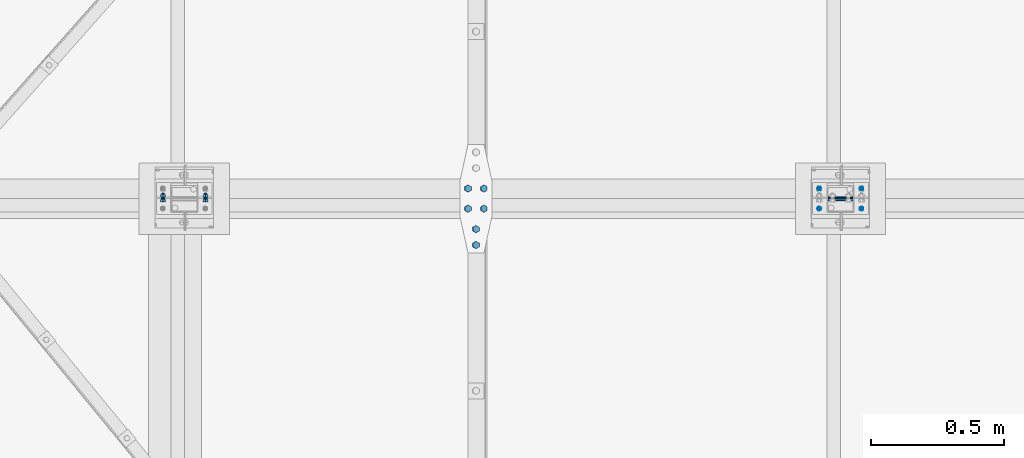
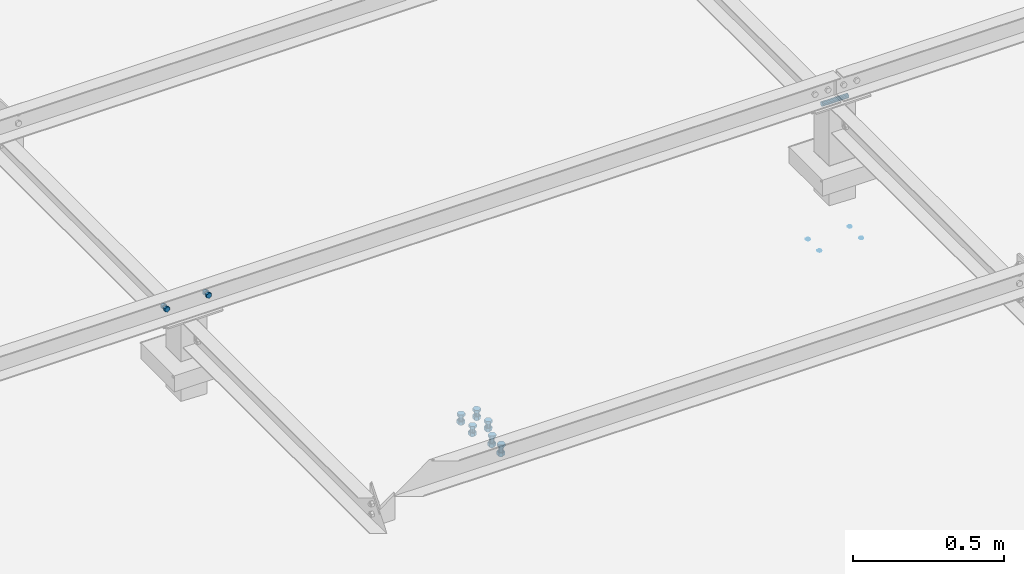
# One storey, part 327 of 3134: 5 mechanical fasteners, 5 elements without a shape of their own.
"""IFC2X3 building model written with IfcOpenShell, lengths in millimetres."""

from ifc_helpers import new_model, si_unit, frame, origin_with_axes, place, context, subcontext, project, spatial, faceted_brep, source, transform, mapped, material, type_object, element, aggregate, save


model = new_model("IFC2X3")

# Units and contexts
model_context = context("Model", 3, precision=1e-05, world=origin_with_axes())
body_context = subcontext(model_context, "Body", "Model", "MODEL_VIEW")
ifc_project = project(units=[si_unit("LENGTHUNIT", "METRE", prefix="MILLI"), si_unit("AREAUNIT", "SQUARE_METRE"), si_unit("VOLUMEUNIT", "CUBIC_METRE"), si_unit("MASSUNIT", "GRAM", prefix="KILO"), si_unit("TIMEUNIT", "SECOND"), si_unit("PLANEANGLEUNIT", "RADIAN"), si_unit("SOLIDANGLEUNIT", "STERADIAN"), si_unit("THERMODYNAMICTEMPERATUREUNIT", "DEGREE_CELSIUS"), si_unit("LUMINOUSINTENSITYUNIT", "LUMEN")], contexts=[model_context])

# Site, building, storey
site_placement = place(None, origin_with_axes())
site = spatial("IfcSite", under=ifc_project, at=site_placement, CompositionType="ELEMENT")
building_placement = place(site_placement, origin_with_axes())
building = spatial("IfcBuilding", under=site, at=building_placement, Name="Undefined", CompositionType="ELEMENT")
storey_placement = place(building_placement, origin_with_axes())
storey = spatial("IfcBuildingStorey", under=building, at=storey_placement, Name="Undefined", CompositionType="ELEMENT", Elevation=0.0)

# Assembly, mechanical fastener
assembly_1_placement = place(storey_placement, origin_with_axes())
assembly_1 = element("IfcElementAssembly", 1, at=assembly_1_placement, inside=storey, Name="300", AssemblyPlace="NOTDEFINED", PredefinedType="RIGID_FRAME")
ifc_material = material(Name="8.8")
mechanical_fastener_type = type_object("IfcMechanicalFastenerType", Name="Bolt assembly")
shared_shape_1 = source(origin_with_axes(), body_context, "Body", "Brep", [
    faceted_brep([(13.856406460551, -23.1999997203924, 0.0), (6.92820323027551, -23.1999997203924, 12.0), (-6.92820323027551, -23.1999997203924, 12.0), (-13.856406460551, -23.1999997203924, 1.69692038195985e-15), (-6.92820323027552, -23.1999997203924, -12.0), (6.9282032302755, -23.1999997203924, -12.0), (6.9282032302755, -13.1999997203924, -12.0), (-6.92820323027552, -13.1999997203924, -12.0), (-13.856406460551, -13.1999997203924, 1.69692038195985e-15), (-6.92820323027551, -13.1999997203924, 12.0), (6.92820323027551, -13.1999997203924, 12.0), (13.856406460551, -13.1999997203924, 0.0), (8.0, -13.1999997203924, 0.0), (6.92820323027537, -13.1999997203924, 4.00000000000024), (3.99999999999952, -13.1999997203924, 6.92820323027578), (-8.29068785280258e-13, -13.1999997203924, 8.0), (-4.00000000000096, -13.1999997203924, 6.92820323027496), (-6.9282032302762, -13.1999997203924, 3.99999999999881), (-8.0, -13.1999997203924, -1.65813757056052e-12), (-6.92820323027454, -13.1999997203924, -4.00000000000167), (-3.99999999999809, -13.1999997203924, -6.92820323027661), (2.47832457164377e-12, -13.1999997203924, -8.0), (4.00000000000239, -13.1999997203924, -6.92820323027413), (6.92820323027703, -13.1999997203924, -3.99999999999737), (6.92820323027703, 21.8000002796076, -3.99999999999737), (4.00000000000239, 21.8000002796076, -6.92820323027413), (2.47832457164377e-12, 21.8000002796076, -8.0), (-3.99999999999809, 21.8000002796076, -6.92820323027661), (-6.92820323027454, 21.8000002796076, -4.00000000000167), (-8.0, 21.8000002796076, -1.65813757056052e-12), (-6.9282032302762, 21.8000002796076, 3.99999999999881), (-4.00000000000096, 21.8000002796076, 6.92820323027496), (-8.29068785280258e-13, 21.8000002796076, 8.0), (3.99999999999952, 21.8000002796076, 6.92820323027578), (6.92820323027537, 21.8000002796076, 4.00000000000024), (8.0, 21.8000002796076, 0.0), (13.856406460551, 3.99999999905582, 0.0), (6.92820323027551, 3.99999999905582, 12.0), (-6.92820323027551, 3.99999999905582, 12.0), (-13.856406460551, 3.99999999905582, 1.69692038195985e-15), (-6.92820323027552, 3.99999999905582, -12.0), (6.9282032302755, 3.99999999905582, -12.0), (6.9282032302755, 16.9999999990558, -12.0), (-6.92820323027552, 16.9999999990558, -12.0), (-13.856406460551, 16.9999999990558, 1.69692038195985e-15), (-6.92820323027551, 16.9999999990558, 12.0), (6.92820323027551, 16.9999999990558, 12.0), (13.856406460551, 16.9999999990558, 0.0)], [[[0, 1, 2, 3, 4, 5]], [[6, 7, 8, 9, 10, 11]], [[0, 11, 10, 1]], [[1, 10, 9, 2]], [[2, 9, 8, 3]], [[3, 8, 7, 4]], [[4, 7, 6, 5]], [[5, 6, 11, 0]], [[12, 13, 14, 15, 16, 17, 18, 19, 20, 21, 22, 23]], [[24, 25, 26, 27, 28, 29, 30, 31, 32, 33, 34, 35]], [[12, 35, 34, 13]], [[13, 34, 33, 14]], [[14, 33, 32, 15]], [[15, 32, 31, 16]], [[16, 31, 30, 17]], [[17, 30, 29, 18]], [[18, 29, 28, 19]], [[19, 28, 27, 20]], [[20, 27, 26, 21]], [[21, 26, 25, 22]], [[22, 25, 24, 23]], [[23, 24, 35, 12]], [[36, 37, 38, 39, 40, 41]], [[42, 43, 44, 45, 46, 47]], [[36, 47, 46, 37]], [[37, 46, 45, 38]], [[38, 45, 44, 39]], [[39, 44, 43, 40]], [[40, 43, 42, 41]], [[41, 42, 47, 36]]]),
    faceted_brep([(9.0, -4.10000000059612, 0.0), (7.79422863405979, -4.10000000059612, 4.50000000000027), (4.49999999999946, -4.10000000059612, 7.79422863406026), (-9.3270238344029e-13, -4.10000000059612, 9.0), (-4.50000000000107, -4.10000000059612, 7.79422863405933), (-7.79422863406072, -4.10000000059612, 4.49999999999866), (-9.0, -4.10000000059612, -1.86540476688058e-12), (-7.79422863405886, -4.10000000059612, -4.50000000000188), (-4.49999999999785, -4.10000000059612, -7.79422863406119), (2.78811514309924e-12, -4.10000000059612, -9.0), (4.50000000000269, -4.10000000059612, -7.7942286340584), (7.79422863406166, -4.10000000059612, -4.49999999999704), (7.79422863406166, 4.00000375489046, -4.49999999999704), (4.50000000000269, 4.00000375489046, -7.7942286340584), (2.78811514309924e-12, 4.00000375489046, -9.0), (-4.49999999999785, 4.00000375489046, -7.79422863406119), (-7.79422863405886, 4.00000375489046, -4.50000000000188), (-9.0, 4.00000375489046, -1.86540476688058e-12), (-7.79422863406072, 4.00000375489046, 4.49999999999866), (-4.50000000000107, 4.00000375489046, 7.79422863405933), (-9.3270238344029e-13, 4.00000375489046, 9.0), (4.49999999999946, 4.00000375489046, 7.79422863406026), (7.79422863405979, 4.00000375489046, 4.50000000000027), (9.0, 4.00000375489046, 0.0), (9.0, -13.0999997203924, 0.0), (7.79422863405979, -13.0999997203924, 4.50000000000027), (4.49999999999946, -13.0999997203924, 7.79422863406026), (-9.3270238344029e-13, -13.0999997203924, 9.0), (-4.50000000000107, -13.0999997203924, 7.79422863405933), (-7.79422863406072, -13.0999997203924, 4.49999999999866), (-9.0, -13.0999997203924, -1.86540476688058e-12), (-7.79422863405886, -13.0999997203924, -4.50000000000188), (-4.49999999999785, -13.0999997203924, -7.79422863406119), (2.78811514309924e-12, -13.0999997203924, -9.0), (4.50000000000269, -13.0999997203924, -7.7942286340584), (7.79422863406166, -13.0999997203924, -4.49999999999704), (7.79422863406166, -3.9, -4.49999999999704), (4.50000000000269, -3.9, -7.7942286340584), (2.78811514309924e-12, -3.9, -9.0), (-4.49999999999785, -3.9, -7.79422863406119), (-7.79422863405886, -3.9, -4.50000000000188), (-9.0, -3.9, -1.86540476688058e-12), (-7.79422863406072, -3.9, 4.49999999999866), (-4.50000000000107, -3.9, 7.79422863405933), (-9.3270238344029e-13, -3.9, 9.0), (4.49999999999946, -3.9, 7.79422863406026), (7.79422863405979, -3.9, 4.50000000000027), (9.0, -3.9, 0.0)], [[[0, 1, 2, 3, 4, 5, 6, 7, 8, 9, 10, 11]], [[12, 13, 14, 15, 16, 17, 18, 19, 20, 21, 22, 23]], [[0, 23, 22, 1]], [[1, 22, 21, 2]], [[2, 21, 20, 3]], [[3, 20, 19, 4]], [[4, 19, 18, 5]], [[5, 18, 17, 6]], [[6, 17, 16, 7]], [[7, 16, 15, 8]], [[8, 15, 14, 9]], [[9, 14, 13, 10]], [[10, 13, 12, 11]], [[11, 12, 23, 0]], [[24, 25, 26, 27, 28, 29, 30, 31, 32, 33, 34, 35]], [[36, 37, 38, 39, 40, 41, 42, 43, 44, 45, 46, 47]], [[24, 47, 46, 25]], [[25, 46, 45, 26]], [[26, 45, 44, 27]], [[27, 44, 43, 28]], [[28, 43, 42, 29]], [[29, 42, 41, 30]], [[30, 41, 40, 31]], [[31, 40, 39, 32]], [[32, 39, 38, 33]], [[33, 38, 37, 34]], [[34, 37, 36, 35]], [[35, 36, 47, 24]]]),
])
mechanical_fastener_1_placement = place(assembly_1_placement, frame((71700.0552172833, 7611.9999999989, 5010.20374993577), z_axis=(-0.999519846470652, 0.0, 0.0309851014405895), x_axis=(0.0, 1.0, 0.0)))
mechanical_fastener_1 = element("IfcMechanicalFastener", 2, at=mechanical_fastener_1_placement, type_object=mechanical_fastener_type, material=ifc_material, Name="Bolt assembly", NominalDiameter=16.0, NominalLength=35.0, context=body_context, shape_type="MappedRepresentation", body=[
    mapped(shared_shape_1, transform((0.0, 4.54747350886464e-13, -30.0000000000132))),
    mapped(shared_shape_1, transform((76.0, -2.00088834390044e-10, -29.9999999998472))),
    mapped(shared_shape_1, transform((0.0, 4.54747350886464e-13, 30.0000000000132))),
    mapped(shared_shape_1, transform((76.0, 1.98269844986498e-10, 29.9999999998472))),
])
aggregate(assembly_1, [mechanical_fastener_1])

assembly_2_placement = place(storey_placement, origin_with_axes())
assembly_2 = element("IfcElementAssembly", 3, at=assembly_2_placement, inside=storey, AssemblyPlace="NOTDEFINED", PredefinedType="RIGID_FRAME")
shared_shape_2 = source(origin_with_axes(), body_context, "Body", "Brep", [
    faceted_brep([(7.0, 13.0000253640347, 0.0), (6.06217782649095, 13.0000253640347, 3.50000000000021), (3.49999999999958, 13.0000253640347, 6.06217782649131), (-7.25435187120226e-13, 13.0000253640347, 7.0), (-3.50000000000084, 13.0000253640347, 6.06217782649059), (-6.06217782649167, 13.0000253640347, 3.49999999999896), (-7.0, 13.0000253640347, -1.45087037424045e-12), (-6.06217782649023, 13.0000253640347, -3.50000000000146), (-3.49999999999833, 13.0000253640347, -6.06217782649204), (2.1685340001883e-12, 13.0000253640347, -7.0), (3.50000000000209, 13.0000253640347, -6.06217782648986), (6.0621778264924, 13.0000253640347, -3.4999999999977), (6.0621778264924, 15.0999999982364, -3.4999999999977), (3.50000000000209, 15.0999999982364, -6.06217782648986), (2.1685340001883e-12, 15.0999999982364, -7.0), (-3.49999999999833, 15.0999999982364, -6.06217782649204), (-6.06217782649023, 15.0999999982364, -3.50000000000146), (-7.0, 15.0999999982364, -1.45087037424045e-12), (-6.06217782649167, 15.0999999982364, 3.49999999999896), (-3.50000000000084, 15.0999999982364, 6.06217782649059), (-7.25435187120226e-13, 15.0999999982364, 7.0), (3.49999999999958, 15.0999999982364, 6.06217782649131), (6.06217782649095, 15.0999999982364, 3.50000000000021), (7.0, 15.0999999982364, 0.0)], [[[0, 1, 2, 3, 4, 5, 6, 7, 8, 9, 10, 11]], [[12, 13, 14, 15, 16, 17, 18, 19, 20, 21, 22, 23]], [[0, 23, 22, 1]], [[1, 22, 21, 2]], [[2, 21, 20, 3]], [[3, 20, 19, 4]], [[4, 19, 18, 5]], [[5, 18, 17, 6]], [[6, 17, 16, 7]], [[7, 16, 15, 8]], [[8, 15, 14, 9]], [[9, 14, 13, 10]], [[10, 13, 12, 11]], [[11, 12, 23, 0]]]),
])
mechanical_fastener_2_placement = place(assembly_2_placement, frame((73074.3451187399, 7688.0, 5255.7372055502), z_axis=(-0.99951962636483, 0.0, 0.0309922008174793), x_axis=(0.0, -1.0, 0.0)))
mechanical_fastener_2 = element("IfcMechanicalFastener", 4, at=mechanical_fastener_2_placement, type_object=mechanical_fastener_type, material=ifc_material, Name="Bolt assembly", NominalDiameter=12.0, NominalLength=2.0, context=body_context, shape_type="MappedRepresentation", body=[
    mapped(shared_shape_2, transform((0.0, -5.32963895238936e-10, -79.9999999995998))),
    mapped(shared_shape_2, transform((76.0, -5.32963895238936e-10, -79.9999999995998))),
    mapped(shared_shape_2, transform((0.0, 5.3114490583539e-10, 79.9999999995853))),
    mapped(shared_shape_2, transform((76.0, 5.3114490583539e-10, 79.9999999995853))),
])
aggregate(assembly_2, [mechanical_fastener_2])

assembly_3_placement = place(storey_placement, origin_with_axes())
assembly_3 = element("IfcElementAssembly", 5, at=assembly_3_placement, inside=storey, AssemblyPlace="NOTDEFINED", PredefinedType="RIGID_FRAME")
shared_shape_3 = source(origin_with_axes(), body_context, "Body", "Brep", [
    faceted_brep([(9.0, -50.0, 0.0), (7.79422863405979, -50.0, 4.50000000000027), (4.49999999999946, -50.0, 7.79422863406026), (-9.3270238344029e-13, -50.0, 9.0), (-4.50000000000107, -50.0, 7.79422863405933), (-7.79422863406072, -50.0, 4.49999999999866), (-9.0, -50.0, -1.86540476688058e-12), (-7.79422863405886, -50.0, -4.50000000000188), (-4.49999999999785, -50.0, -7.79422863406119), (2.78811514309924e-12, -50.0, -9.0), (4.50000000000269, -50.0, -7.7942286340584), (7.79422863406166, -50.0, -4.49999999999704), (7.79422863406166, 50.1, -4.49999999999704), (4.50000000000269, 50.1, -7.7942286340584), (2.78811514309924e-12, 50.1, -9.0), (-4.49999999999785, 50.1, -7.79422863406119), (-7.79422863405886, 50.1, -4.50000000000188), (-9.0, 50.1, -1.86540476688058e-12), (-7.79422863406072, 50.1, 4.49999999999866), (-4.50000000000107, 50.1, 7.79422863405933), (-9.3270238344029e-13, 50.1, 9.0), (4.49999999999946, 50.1, 7.79422863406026), (7.79422863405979, 50.1, 4.50000000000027), (9.0, 50.1, 0.0)], [[[0, 1, 2, 3, 4, 5, 6, 7, 8, 9, 10, 11]], [[12, 13, 14, 15, 16, 17, 18, 19, 20, 21, 22, 23]], [[0, 23, 22, 1]], [[1, 22, 21, 2]], [[2, 21, 20, 3]], [[3, 20, 19, 4]], [[4, 19, 18, 5]], [[5, 18, 17, 6]], [[6, 17, 16, 7]], [[7, 16, 15, 8]], [[8, 15, 14, 9]], [[9, 14, 13, 10]], [[10, 13, 12, 11]], [[11, 12, 23, 0]]]),
])
mechanical_fastener_3_placement = place(assembly_3_placement, frame((73075.0, 7650.0, 5830.0), z_axis=(0.0, 1.0, 0.0), x_axis=(0.0, 0.0, 1.0)))
mechanical_fastener_3 = element("IfcMechanicalFastener", 6, at=mechanical_fastener_3_placement, type_object=mechanical_fastener_type, material=ifc_material, Name="Bolt assembly", NominalDiameter=16.0, NominalLength=100.0, context=body_context, shape_type="MappedRepresentation", body=[
    mapped(shared_shape_3, transform((0.0, 0.0, 0.0))),
])
aggregate(assembly_3, [mechanical_fastener_3])

assembly_4_placement = place(storey_placement, origin_with_axes())
assembly_4 = element("IfcElementAssembly", 7, at=assembly_4_placement, inside=storey, AssemblyPlace="NOTDEFINED", PredefinedType="RIGID_FRAME")
shared_shape_4 = source(origin_with_axes(), body_context, "Body", "Brep", [
    faceted_brep([(10.9696551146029, -12.0, 0.0), (5.48482755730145, -12.0, 9.5), (-5.48482755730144, -12.0, 9.5), (-10.9696551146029, -12.0, 1.34339530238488e-15), (-5.48482755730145, -12.0, -9.5), (5.48482755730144, -12.0, -9.50000000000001), (5.48482755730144, -4.0, -9.50000000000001), (-5.48482755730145, -4.0, -9.5), (-10.9696551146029, -4.0, 1.34339530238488e-15), (-5.48482755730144, -4.0, 9.5), (5.48482755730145, -4.0, 9.5), (10.9696551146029, -4.0, 0.0), (6.0, -4.0, 0.0), (5.19615242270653, -4.0, 3.00000000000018), (2.99999999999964, -4.0, 5.19615242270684), (-6.21801588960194e-13, -4.0, 6.0), (-3.00000000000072, -4.0, 5.19615242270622), (-5.19615242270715, -4.0, 2.9999999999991), (-6.0, -4.0, -1.24360317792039e-12), (-5.19615242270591, -4.0, -3.00000000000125), (-2.99999999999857, -4.0, -5.19615242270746), (1.85874342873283e-12, -4.0, -6.0), (3.00000000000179, -4.0, -5.1961524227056), (5.19615242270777, -4.0, -2.99999999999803), (5.19615242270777, 21.0, -2.99999999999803), (3.00000000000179, 21.0, -5.1961524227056), (1.85874342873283e-12, 21.0, -6.0), (-2.99999999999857, 21.0, -5.19615242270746), (-5.19615242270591, 21.0, -3.00000000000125), (-6.0, 21.0, -1.24360317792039e-12), (-5.19615242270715, 21.0, 2.9999999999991), (-3.00000000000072, 21.0, 5.19615242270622), (-6.21801588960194e-13, 21.0, 6.0), (2.99999999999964, 21.0, 5.19615242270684), (5.19615242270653, 21.0, 3.00000000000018), (6.0, 21.0, 0.0), (10.9696551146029, 6.00000000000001, 0.0), (5.48482755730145, 6.00000000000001, 9.5), (-5.48482755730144, 6.00000000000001, 9.5), (-10.9696551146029, 6.00000000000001, 1.34339530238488e-15), (-5.48482755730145, 6.00000000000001, -9.5), (5.48482755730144, 6.00000000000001, -9.50000000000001), (5.48482755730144, 16.0, -9.50000000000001), (-5.48482755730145, 16.0, -9.5), (-10.9696551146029, 16.0, 1.34339530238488e-15), (-5.48482755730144, 16.0, 9.5), (5.48482755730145, 16.0, 9.5), (10.9696551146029, 16.0, 0.0)], [[[0, 1, 2, 3, 4, 5]], [[6, 7, 8, 9, 10, 11]], [[0, 11, 10, 1]], [[1, 10, 9, 2]], [[2, 9, 8, 3]], [[3, 8, 7, 4]], [[4, 7, 6, 5]], [[5, 6, 11, 0]], [[12, 13, 14, 15, 16, 17, 18, 19, 20, 21, 22, 23]], [[24, 25, 26, 27, 28, 29, 30, 31, 32, 33, 34, 35]], [[12, 35, 34, 13]], [[13, 34, 33, 14]], [[14, 33, 32, 15]], [[15, 32, 31, 16]], [[16, 31, 30, 17]], [[17, 30, 29, 18]], [[18, 29, 28, 19]], [[19, 28, 27, 20]], [[20, 27, 26, 21]], [[21, 26, 25, 22]], [[22, 25, 24, 23]], [[23, 24, 35, 12]], [[36, 37, 38, 39, 40, 41]], [[42, 43, 44, 45, 46, 47]], [[36, 47, 46, 37]], [[37, 46, 45, 38]], [[38, 45, 44, 39]], [[39, 44, 43, 40]], [[40, 43, 42, 41]], [[41, 42, 47, 36]]]),
    faceted_brep([(7.0, -3.9, 0.0), (6.06217782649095, -3.9, 3.50000000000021), (3.49999999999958, -3.9, 6.06217782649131), (-7.25435187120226e-13, -3.9, 7.0), (-3.50000000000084, -3.9, 6.06217782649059), (-6.06217782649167, -3.9, 3.49999999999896), (-7.0, -3.9, -1.45087037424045e-12), (-6.06217782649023, -3.9, -3.50000000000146), (-3.49999999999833, -3.9, -6.06217782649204), (2.1685340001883e-12, -3.9, -7.0), (3.50000000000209, -3.9, -6.06217782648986), (6.0621778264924, -3.9, -3.4999999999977), (6.0621778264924, 0.0999999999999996, -3.4999999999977), (3.50000000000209, 0.0999999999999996, -6.06217782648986), (2.1685340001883e-12, 0.0999999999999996, -7.0), (-3.49999999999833, 0.0999999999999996, -6.06217782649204), (-6.06217782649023, 0.0999999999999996, -3.50000000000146), (-7.0, 0.0999999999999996, -1.45087037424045e-12), (-6.06217782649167, 0.0999999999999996, 3.49999999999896), (-3.50000000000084, 0.0999999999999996, 6.06217782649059), (-7.25435187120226e-13, 0.0999999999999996, 7.0), (3.49999999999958, 0.0999999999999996, 6.06217782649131), (6.06217782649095, 0.0999999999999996, 3.50000000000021), (7.0, 0.0999999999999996, 0.0), (7.0, -0.1, 0.0), (6.06217782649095, -0.1, 3.50000000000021), (3.49999999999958, -0.1, 6.06217782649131), (-7.25435187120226e-13, -0.1, 7.0), (-3.50000000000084, -0.1, 6.06217782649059), (-6.06217782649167, -0.1, 3.49999999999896), (-7.0, -0.1, -1.45087037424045e-12), (-6.06217782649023, -0.1, -3.50000000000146), (-3.49999999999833, -0.1, -6.06217782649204), (2.1685340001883e-12, -0.1, -7.0), (3.50000000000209, -0.1, -6.06217782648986), (6.0621778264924, -0.1, -3.4999999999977), (6.0621778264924, 6.00000000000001, -3.4999999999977), (3.50000000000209, 6.00000000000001, -6.06217782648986), (2.1685340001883e-12, 6.00000000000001, -7.0), (-3.49999999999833, 6.00000000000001, -6.06217782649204), (-6.06217782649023, 6.00000000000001, -3.50000000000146), (-7.0, 6.00000000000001, -1.45087037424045e-12), (-6.06217782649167, 6.00000000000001, 3.49999999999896), (-3.50000000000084, 6.00000000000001, 6.06217782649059), (-7.25435187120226e-13, 6.00000000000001, 7.0), (3.49999999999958, 6.00000000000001, 6.06217782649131), (6.06217782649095, 6.00000000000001, 3.50000000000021), (7.0, 6.00000000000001, 0.0)], [[[0, 1, 2, 3, 4, 5, 6, 7, 8, 9, 10, 11]], [[12, 13, 14, 15, 16, 17, 18, 19, 20, 21, 22, 23]], [[0, 23, 22, 1]], [[1, 22, 21, 2]], [[2, 21, 20, 3]], [[3, 20, 19, 4]], [[4, 19, 18, 5]], [[5, 18, 17, 6]], [[6, 17, 16, 7]], [[7, 16, 15, 8]], [[8, 15, 14, 9]], [[9, 14, 13, 10]], [[10, 13, 12, 11]], [[11, 12, 23, 0]], [[24, 25, 26, 27, 28, 29, 30, 31, 32, 33, 34, 35]], [[36, 37, 38, 39, 40, 41, 42, 43, 44, 45, 46, 47]], [[24, 47, 46, 25]], [[25, 46, 45, 26]], [[26, 45, 44, 27]], [[27, 44, 43, 28]], [[28, 43, 42, 29]], [[29, 42, 41, 30]], [[30, 41, 40, 31]], [[31, 40, 39, 32]], [[32, 39, 38, 33]], [[33, 38, 37, 34]], [[34, 37, 36, 35]], [[35, 36, 47, 24]]]),
])
mechanical_fastener_4_placement = place(assembly_4_placement, frame((70600.0, 7650.0, 5885.0), z_axis=(1.0, 0.0, 0.0), x_axis=(0.0, 0.0, -1.0)))
mechanical_fastener_4 = element("IfcMechanicalFastener", 8, at=mechanical_fastener_4_placement, type_object=mechanical_fastener_type, material=ifc_material, Name="Bolt assembly", NominalDiameter=12.0, NominalLength=25.0, context=body_context, shape_type="MappedRepresentation", body=[
    mapped(shared_shape_4, transform((0.0, -5.32963895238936e-10, -79.9999999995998))),
    mapped(shared_shape_4, transform((0.0, 5.3114490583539e-10, 79.9999999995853))),
])
aggregate(assembly_4, [mechanical_fastener_4])

assembly_5_placement = place(storey_placement, origin_with_axes())
assembly_5 = element("IfcElementAssembly", 9, at=assembly_5_placement, inside=storey, AssemblyPlace="NOTDEFINED", PredefinedType="RIGID_FRAME")
shared_shape_5 = source(origin_with_axes(), body_context, "Body", "Brep", [
    faceted_brep([(13.856406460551, -21.0000017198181, 0.0), (6.92820323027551, -21.0000017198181, 12.0), (-6.92820323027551, -21.0000017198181, 12.0), (-13.856406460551, -21.0000017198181, 1.69692038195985e-15), (-6.92820323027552, -21.0000017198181, -12.0), (6.9282032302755, -21.0000017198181, -12.0), (6.9282032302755, -11.0000017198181, -12.0), (-6.92820323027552, -11.0000017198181, -12.0), (-13.856406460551, -11.0000017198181, 1.69692038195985e-15), (-6.92820323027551, -11.0000017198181, 12.0), (6.92820323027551, -11.0000017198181, 12.0), (13.856406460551, -11.0000017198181, 0.0), (8.0, -11.0000017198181, 0.0), (6.92820323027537, -11.0000017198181, 4.00000000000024), (3.99999999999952, -11.0000017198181, 6.92820323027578), (-8.29068785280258e-13, -11.0000017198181, 8.0), (-4.00000000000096, -11.0000017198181, 6.92820323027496), (-6.9282032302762, -11.0000017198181, 3.99999999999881), (-8.0, -11.0000017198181, -1.65813757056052e-12), (-6.92820323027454, -11.0000017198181, -4.00000000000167), (-3.99999999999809, -11.0000017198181, -6.92820323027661), (2.47832457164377e-12, -11.0000017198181, -8.0), (4.00000000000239, -11.0000017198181, -6.92820323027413), (6.92820323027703, -11.0000017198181, -3.99999999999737), (6.92820323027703, 29.0, -3.99999999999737), (4.00000000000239, 29.0, -6.92820323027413), (2.47832457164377e-12, 29.0, -8.0), (-3.99999999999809, 29.0, -6.92820323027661), (-6.92820323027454, 29.0, -4.00000000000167), (-8.0, 29.0, -1.65813757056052e-12), (-6.9282032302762, 29.0, 3.99999999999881), (-4.00000000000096, 29.0, 6.92820323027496), (-8.29068785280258e-13, 29.0, 8.0), (3.99999999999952, 29.0, 6.92820323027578), (6.92820323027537, 29.0, 4.00000000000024), (8.0, 29.0, 0.0), (13.856406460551, 10.9979999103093, 0.0), (6.92820323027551, 10.9979999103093, 12.0), (-6.92820323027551, 10.9979999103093, 12.0), (-13.856406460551, 10.9979999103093, 1.69692038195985e-15), (-6.92820323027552, 10.9979999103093, -12.0), (6.9282032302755, 10.9979999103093, -12.0), (6.9282032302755, 23.9979999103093, -12.0), (-6.92820323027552, 23.9979999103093, -12.0), (-13.856406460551, 23.9979999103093, 1.69692038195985e-15), (-6.92820323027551, 23.9979999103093, 12.0), (6.92820323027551, 23.9979999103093, 12.0), (13.856406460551, 23.9979999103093, 0.0)], [[[0, 1, 2, 3, 4, 5]], [[6, 7, 8, 9, 10, 11]], [[0, 11, 10, 1]], [[1, 10, 9, 2]], [[2, 9, 8, 3]], [[3, 8, 7, 4]], [[4, 7, 6, 5]], [[5, 6, 11, 0]], [[12, 13, 14, 15, 16, 17, 18, 19, 20, 21, 22, 23]], [[24, 25, 26, 27, 28, 29, 30, 31, 32, 33, 34, 35]], [[12, 35, 34, 13]], [[13, 34, 33, 14]], [[14, 33, 32, 15]], [[15, 32, 31, 16]], [[16, 31, 30, 17]], [[17, 30, 29, 18]], [[18, 29, 28, 19]], [[19, 28, 27, 20]], [[20, 27, 26, 21]], [[21, 26, 25, 22]], [[22, 25, 24, 23]], [[23, 24, 35, 12]], [[36, 37, 38, 39, 40, 41]], [[42, 43, 44, 45, 46, 47]], [[36, 47, 46, 37]], [[37, 46, 45, 38]], [[38, 45, 44, 39]], [[39, 44, 43, 40]], [[40, 43, 42, 41]], [[41, 42, 47, 36]]]),
    faceted_brep([(9.0, -10.9000017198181, 0.0), (7.79422863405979, -10.9000017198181, 4.50000000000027), (4.49999999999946, -10.9000017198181, 7.79422863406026), (-9.3270238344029e-13, -10.9000017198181, 9.0), (-4.50000000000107, -10.9000017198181, 7.79422863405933), (-7.79422863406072, -10.9000017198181, 4.49999999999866), (-9.0, -10.9000017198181, -1.86540476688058e-12), (-7.79422863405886, -10.9000017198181, -4.50000000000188), (-4.49999999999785, -10.9000017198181, -7.79422863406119), (2.78811514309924e-12, -10.9000017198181, -9.0), (4.50000000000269, -10.9000017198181, -7.7942286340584), (7.79422863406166, -10.9000017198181, -4.49999999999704), (7.79422863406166, -3.9, -4.49999999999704), (4.50000000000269, -3.9, -7.7942286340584), (2.78811514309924e-12, -3.9, -9.0), (-4.49999999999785, -3.9, -7.79422863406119), (-7.79422863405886, -3.9, -4.50000000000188), (-9.0, -3.9, -1.86540476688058e-12), (-7.79422863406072, -3.9, 4.49999999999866), (-4.50000000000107, -3.9, 7.79422863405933), (-9.3270238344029e-13, -3.9, 9.0), (4.49999999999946, -3.9, 7.79422863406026), (7.79422863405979, -3.9, 4.50000000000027), (9.0, -3.9, 0.0), (9.0, 3.89799991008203, 0.0), (7.79422863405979, 3.89799991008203, 4.50000000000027), (4.49999999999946, 3.89799991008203, 7.79422863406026), (-9.3270238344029e-13, 3.89799991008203, 9.0), (-4.50000000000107, 3.89799991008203, 7.79422863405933), (-7.79422863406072, 3.89799991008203, 4.49999999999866), (-9.0, 3.89799991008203, -1.86540476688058e-12), (-7.79422863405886, 3.89799991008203, -4.50000000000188), (-4.49999999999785, 3.89799991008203, -7.79422863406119), (2.78811514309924e-12, 3.89799991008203, -9.0), (4.50000000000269, 3.89799991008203, -7.7942286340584), (7.79422863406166, 3.89799991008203, -4.49999999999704), (7.79422863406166, 10.9979999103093, -4.49999999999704), (4.50000000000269, 10.9979999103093, -7.7942286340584), (2.78811514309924e-12, 10.9979999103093, -9.0), (-4.49999999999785, 10.9979999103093, -7.79422863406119), (-7.79422863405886, 10.9979999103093, -4.50000000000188), (-9.0, 10.9979999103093, -1.86540476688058e-12), (-7.79422863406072, 10.9979999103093, 4.49999999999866), (-4.50000000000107, 10.9979999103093, 7.79422863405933), (-9.3270238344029e-13, 10.9979999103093, 9.0), (4.49999999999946, 10.9979999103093, 7.79422863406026), (7.79422863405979, 10.9979999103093, 4.50000000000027), (9.0, 10.9979999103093, 0.0), (9.0, -3.99999624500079, 0.0), (7.79422863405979, -3.99999624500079, 4.50000000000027), (4.49999999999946, -3.99999624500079, 7.79422863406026), (-9.3270238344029e-13, -3.99999624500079, 9.0), (-4.50000000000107, -3.99999624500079, 7.79422863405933), (-7.79422863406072, -3.99999624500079, 4.49999999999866), (-9.0, -3.99999624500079, -1.86540476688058e-12), (-7.79422863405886, -3.99999624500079, -4.50000000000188), (-4.49999999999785, -3.99999624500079, -7.79422863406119), (2.78811514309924e-12, -3.99999624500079, -9.0), (4.50000000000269, -3.99999624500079, -7.7942286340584), (7.79422863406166, -3.99999624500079, -4.49999999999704), (7.79422863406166, 4.00000375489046, -4.49999999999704), (4.50000000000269, 4.00000375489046, -7.7942286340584), (2.78811514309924e-12, 4.00000375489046, -9.0), (-4.49999999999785, 4.00000375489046, -7.79422863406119), (-7.79422863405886, 4.00000375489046, -4.50000000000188), (-9.0, 4.00000375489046, -1.86540476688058e-12), (-7.79422863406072, 4.00000375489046, 4.49999999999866), (-4.50000000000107, 4.00000375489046, 7.79422863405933), (-9.3270238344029e-13, 4.00000375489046, 9.0), (4.49999999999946, 4.00000375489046, 7.79422863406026), (7.79422863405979, 4.00000375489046, 4.50000000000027), (9.0, 4.00000375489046, 0.0)], [[[0, 1, 2, 3, 4, 5, 6, 7, 8, 9, 10, 11]], [[12, 13, 14, 15, 16, 17, 18, 19, 20, 21, 22, 23]], [[0, 23, 22, 1]], [[1, 22, 21, 2]], [[2, 21, 20, 3]], [[3, 20, 19, 4]], [[4, 19, 18, 5]], [[5, 18, 17, 6]], [[6, 17, 16, 7]], [[7, 16, 15, 8]], [[8, 15, 14, 9]], [[9, 14, 13, 10]], [[10, 13, 12, 11]], [[11, 12, 23, 0]], [[24, 25, 26, 27, 28, 29, 30, 31, 32, 33, 34, 35]], [[36, 37, 38, 39, 40, 41, 42, 43, 44, 45, 46, 47]], [[24, 47, 46, 25]], [[25, 46, 45, 26]], [[26, 45, 44, 27]], [[27, 44, 43, 28]], [[28, 43, 42, 29]], [[29, 42, 41, 30]], [[30, 41, 40, 31]], [[31, 40, 39, 32]], [[32, 39, 38, 33]], [[33, 38, 37, 34]], [[34, 37, 36, 35]], [[35, 36, 47, 24]], [[48, 49, 50, 51, 52, 53, 54, 55, 56, 57, 58, 59]], [[60, 61, 62, 63, 64, 65, 66, 67, 68, 69, 70, 71]], [[48, 71, 70, 49]], [[49, 70, 69, 50]], [[50, 69, 68, 51]], [[51, 68, 67, 52]], [[52, 67, 66, 53]], [[53, 66, 65, 54]], [[54, 65, 64, 55]], [[55, 64, 63, 56]], [[56, 63, 62, 57]], [[57, 62, 61, 58]], [[58, 61, 60, 59]], [[59, 60, 71, 48]]]),
])
mechanical_fastener_5_placement = place(assembly_5_placement, frame((71700.055217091, 7534.9997619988, 5010.20374994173), z_axis=(0.999519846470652, 0.0, -0.0309851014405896), x_axis=(0.0, -1.0, 0.0)))
mechanical_fastener_5 = element("IfcMechanicalFastener", 10, at=mechanical_fastener_5_placement, type_object=mechanical_fastener_type, material=ifc_material, Name="Bolt assembly", NominalDiameter=16.0, NominalLength=40.0, context=body_context, shape_type="MappedRepresentation", body=[
    mapped(shared_shape_5, transform((0.0, 0.0, 0.0))),
    mapped(shared_shape_5, transform((59.9999999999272, 0.0, 5.40239852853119e-10))),
])
aggregate(assembly_5, [mechanical_fastener_5])

save(model, "model.ifc")
